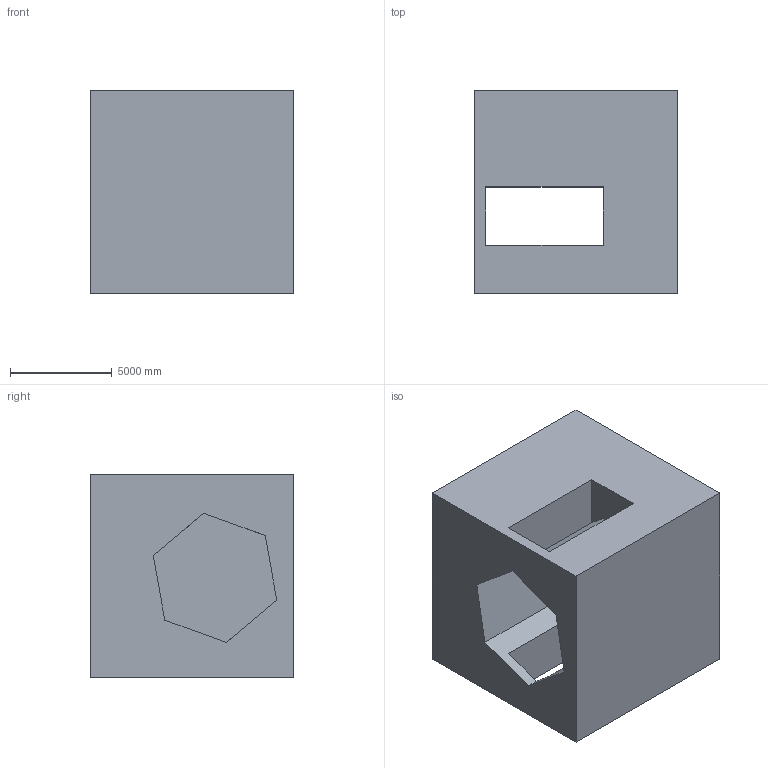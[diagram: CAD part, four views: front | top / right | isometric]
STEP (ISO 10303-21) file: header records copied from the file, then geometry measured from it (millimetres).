
FILE_DESCRIPTION (( 'STEP AP203' ), '1' );
FILE_NAME ('208.STEP', '2022-09-07T12:17:45', ( 'user' ), ( '' ), 'SwSTEP 2.0', 'SolidWorks 2021', '' );
FILE_SCHEMA (( 'CONFIG_CONTROL_DESIGN' ));
Length unit declared in the file: centimetre
Products named in the file (1): 208
Bounding box: 10000 x 10000 x 10000 mm (x, y, z)
Volume: 686053937212.7 mm3; surface area: 785547934.3 mm2
Topology: 1 solids, 1 shells, 21 faces, 60 edges, 40 vertices
Faces by surface type: plane 21
Entity records: 759 total; most frequent: CARTESIAN_POINT 122, ORIENTED_EDGE 120, DIRECTION 104, LINE 60, VECTOR 60, EDGE_CURVE 60, VERTEX_POINT 40, EDGE_LOOP 24
